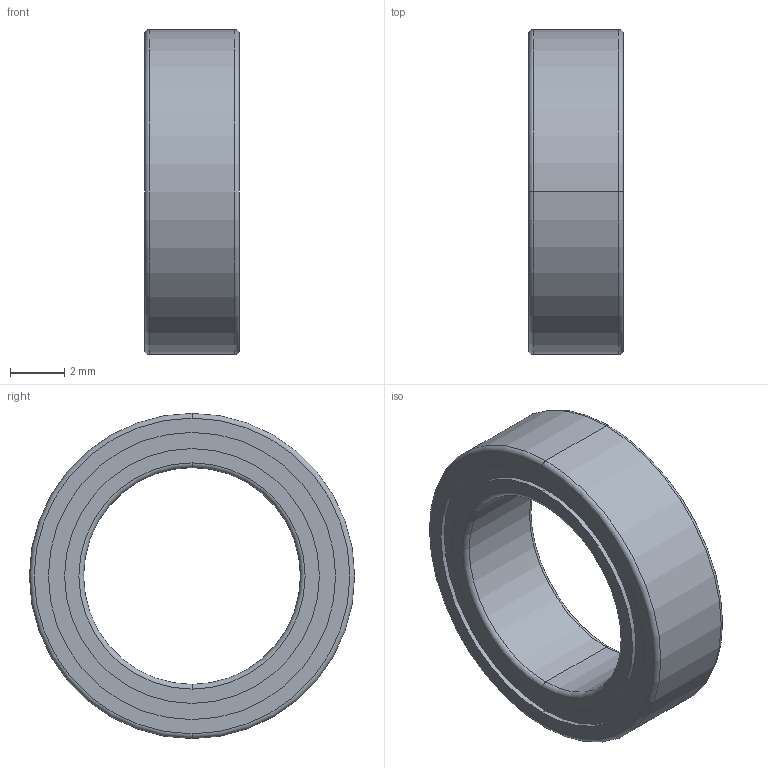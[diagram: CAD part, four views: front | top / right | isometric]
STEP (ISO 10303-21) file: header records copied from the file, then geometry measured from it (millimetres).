
FILE_DESCRIPTION((''),'2;1');
FILE_NAME('MR128ZZ_SW0001','2025-12-19T16:57:41',('qinghui.yi'),(''),'CREO PARAMETRIC BY PTC INC, 2019164','CREO PARAMETRIC BY PTC INC, 2019164','');
FILE_SCHEMA(('CONFIG_CONTROL_DESIGN','SHAPE_APPEARANCE_LAYERS_GROUPS'));
Length unit declared in the file: millimetre
Products named in the file (1): MR128ZZ_SW0001
Bounding box: 3.5 x 12 x 12 mm (x, y, z)
Volume: 212.5 mm3; surface area: 358.1 mm2
Topology: 1 solids, 1 shells, 26 faces, 52 edges, 32 vertices
Faces by surface type: cylinder 12, torus 8, plane 6
Entity records: 937 total; most frequent: COLOUR_RGB 196, DIRECTION 144, CARTESIAN_POINT 110, ORIENTED_EDGE 104, AXIS2_PLACEMENT_3D 66, EDGE_CURVE 52, CIRCLE 40, VERTEX_POINT 32
